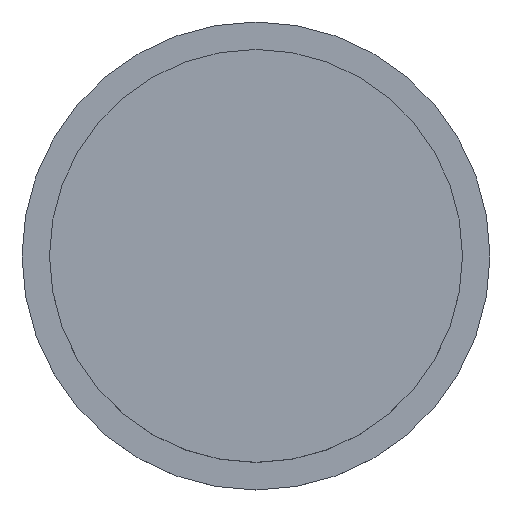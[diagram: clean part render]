
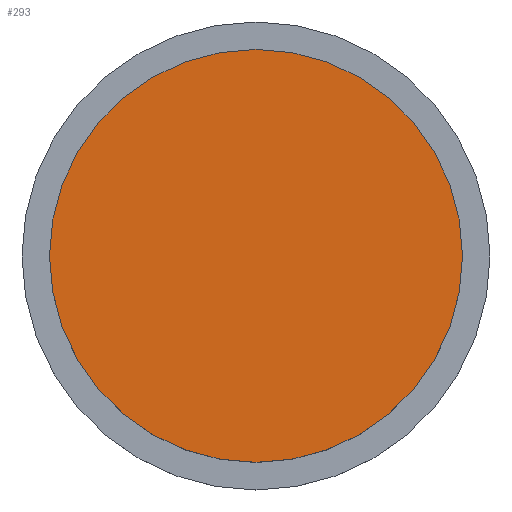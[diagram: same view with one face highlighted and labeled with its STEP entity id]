
A CAD part, top view. The second image highlights one B-rep face of the part: STEP entity #293.
In plain terms, the highlighted planar face has unit normal (0, 0, 1).
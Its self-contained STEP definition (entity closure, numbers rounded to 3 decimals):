
#168 = CYLINDRICAL_SURFACE('',#169,10.5);
#169 = AXIS2_PLACEMENT_3D('',#170,#171,#172);
#170 = CARTESIAN_POINT('',(0.,-36.,25.3));
#171 = DIRECTION('',(-0.,-0.,-1.));
#172 = DIRECTION('',(1.,0.,0.));
#239 = VERTEX_POINT('',#240);
#240 = CARTESIAN_POINT('',(10.5,-36.,28.4));
#261 = EDGE_CURVE('',#239,#239,#262,.T.);
#262 = SURFACE_CURVE('',#263,(#268,#275),.PCURVE_S1.);
#263 = CIRCLE('',#264,10.5);
#264 = AXIS2_PLACEMENT_3D('',#265,#266,#267);
#265 = CARTESIAN_POINT('',(0.,-36.,28.4));
#266 = DIRECTION('',(0.,0.,1.));
#267 = DIRECTION('',(1.,0.,0.));
#268 = PCURVE('',#168,#269);
#269 = DEFINITIONAL_REPRESENTATION('',(#270),#274);
#270 = LINE('',#271,#272);
#271 = CARTESIAN_POINT('',(-0.,-3.1));
#272 = VECTOR('',#273,1.);
#273 = DIRECTION('',(-1.,0.));
#274 = ( GEOMETRIC_REPRESENTATION_CONTEXT(2) 
PARAMETRIC_REPRESENTATION_CONTEXT() REPRESENTATION_CONTEXT('2D SPACE',''
  ) );
#275 = PCURVE('',#276,#281);
#276 = PLANE('',#277);
#277 = AXIS2_PLACEMENT_3D('',#278,#279,#280);
#278 = CARTESIAN_POINT('',(0.,-36.,28.4));
#279 = DIRECTION('',(0.,0.,1.));
#280 = DIRECTION('',(1.,0.,-0.));
#281 = DEFINITIONAL_REPRESENTATION('',(#282),#286);
#282 = CIRCLE('',#283,10.5);
#283 = AXIS2_PLACEMENT_2D('',#284,#285);
#284 = CARTESIAN_POINT('',(0.,0.));
#285 = DIRECTION('',(1.,0.));
#286 = ( GEOMETRIC_REPRESENTATION_CONTEXT(2) 
PARAMETRIC_REPRESENTATION_CONTEXT() REPRESENTATION_CONTEXT('2D SPACE',''
  ) );
#293 = ADVANCED_FACE('',(#294),#276,.T.);
#294 = FACE_BOUND('',#295,.T.);
#295 = EDGE_LOOP('',(#296));
#296 = ORIENTED_EDGE('',*,*,#261,.T.);
